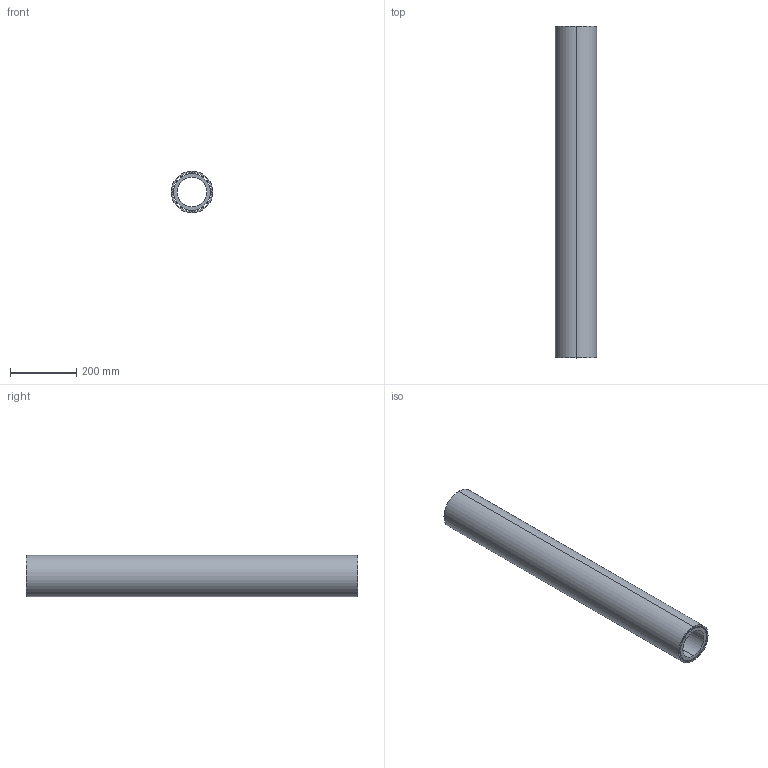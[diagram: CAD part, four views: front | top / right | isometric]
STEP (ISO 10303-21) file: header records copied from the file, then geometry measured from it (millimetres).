
FILE_DESCRIPTION (( 'STEP AP203' ), '1' );
FILE_NAME ('KP_125-110SC.step', '2011-08-08T11:49:57', ( '' ), ( '' ), 'SwSTEP 2.0', 'SolidWorks 2011', '' );
FILE_SCHEMA (( 'CONFIG_CONTROL_DESIGN' ));
Length unit declared in the file: millimetre
Products named in the file (1): KP_125-110SC
Bounding box: 125.4 x 1000 x 125.4 mm (x, y, z)
Volume: 5252078.6 mm3; surface area: 1415474.2 mm2
Topology: 2 solids, 2 shells, 57 faces, 159 edges, 106 vertices
Faces by surface type: cylinder 53, plane 4
Entity records: 1982 total; most frequent: DIRECTION 381, CARTESIAN_POINT 323, ORIENTED_EDGE 318, AXIS2_PLACEMENT_3D 164, EDGE_CURVE 159, CIRCLE 106, VERTEX_POINT 106, EDGE_LOOP 61
